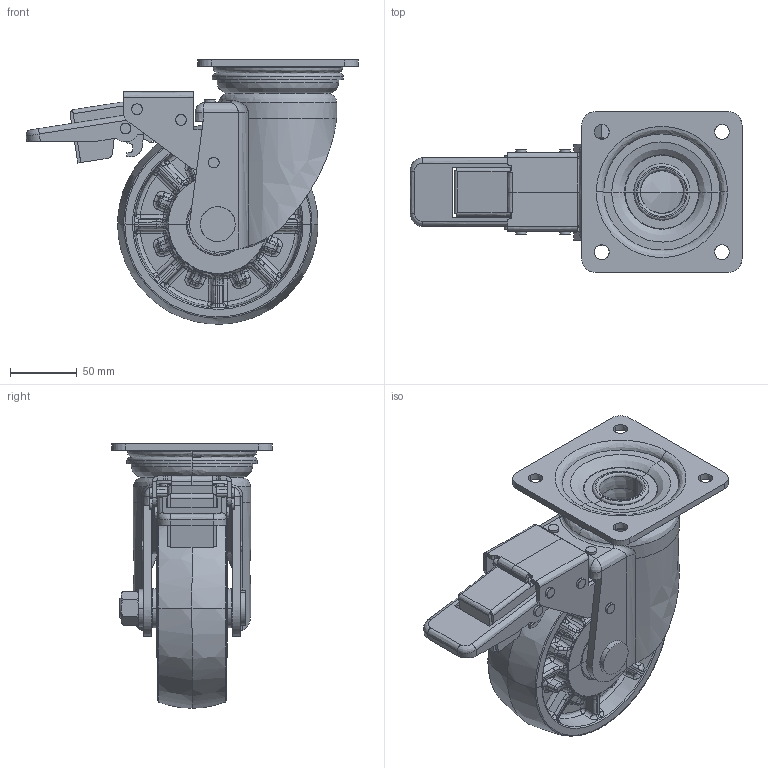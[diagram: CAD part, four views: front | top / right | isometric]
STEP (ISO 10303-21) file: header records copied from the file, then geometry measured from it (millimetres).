
FILE_DESCRIPTION (( 'STEP AP214' ), '1' );
FILE_NAME ('HE-150WJS.STEP', '2023-02-27T02:22:57', ( 'sakai' ), ( 'Hewlett-Packard' ), 'SwSTEP 2.0', 'SolidWorks 2010', '' );
FILE_SCHEMA (( 'AUTOMOTIVE_DESIGN' ));
Length unit declared in the file: millimetre
Products named in the file (16): HE-150WJS-10; HE-150WJS-11; HE-150WJS-12; HE-150WJS-13; HE-150WJS-14; HE-150WJS-15; HE-150WJS-16; HE-150WJS-17; HE-150WJS-18; HE-150WJS-19; HE-150WJS-20; HE-150WJS-21; HE-150WJS-22; HE-150WJS-23; HE-150WJS-24; HE-150WJS
Assembly tree (15 placements, depth 2):
  HE-150WJS
    HE-150WJS-11
    HE-150WJS-21
    HE-150WJS-19
    HE-150WJS-18
    HE-150WJS-10
    HE-150WJS-17
    HE-150WJS-16
    HE-150WJS-22
    HE-150WJS-13
    HE-150WJS-12
    HE-150WJS-15
    HE-150WJS-20
    HE-150WJS-14
    HE-150WJS-24
    HE-150WJS-23
Bounding box: 248.57 x 120 x 197.95 mm (x, y, z)
Volume: 1040784 mm3; surface area: 294899.7 mm2
Topology: 23 solids, 23 shells, 1830 faces, 6463 edges, 4552 vertices
Faces by surface type: bspline 1558, plane 272
Entity records: 189702 total; most frequent: CARTESIAN_POINT 142616, ORIENTED_EDGE 12698, EDGE_CURVE 6349, B_SPLINE_CURVE_WITH_KNOTS 5825, VERTEX_POINT 4552, EDGE_LOOP 1893, FACE_OUTER_BOUND 1830, ADVANCED_FACE 1830
